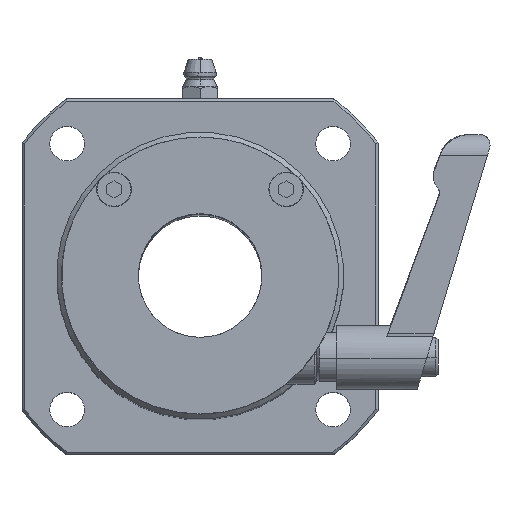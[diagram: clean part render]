
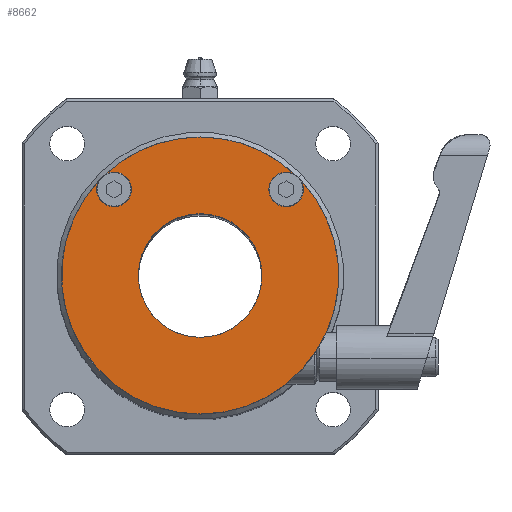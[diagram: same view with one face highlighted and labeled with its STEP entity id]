
A CAD part, top view. The second image highlights one B-rep face of the part: STEP entity #8662.
In plain terms, the highlighted planar face has unit normal (0, 0, 1).
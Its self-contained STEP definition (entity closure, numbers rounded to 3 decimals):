
#295 = EDGE_CURVE ( 'NONE', #2784, #10614, #4389, .T. ) ;
#432 = DIRECTION ( 'NONE',  ( 1., 0., 0. ) ) ;
#451 = CARTESIAN_POINT ( 'NONE',  ( -6.779, -0.556, 63.5 ) ) ;
#469 = EDGE_CURVE ( 'NONE', #9071, #11161, #6266, .T. ) ;
#762 = CARTESIAN_POINT ( 'NONE',  ( 10.621, 16.844, 63.5 ) ) ;
#943 = CARTESIAN_POINT ( 'NONE',  ( -6.779, -0.556, 63.5 ) ) ;
#1249 = FACE_OUTER_BOUND ( 'NONE', #11292, .T. ) ;
#1294 = ORIENTED_EDGE ( 'NONE', *, *, #295, .T. ) ;
#1364 = ORIENTED_EDGE ( 'NONE', *, *, #469, .F. ) ;
#1394 = CARTESIAN_POINT ( 'NONE',  ( 13.658, 18.583, 63.5 ) ) ;
#1433 = DIRECTION ( 'NONE',  ( 0., 0., 1. ) ) ;
#1444 = AXIS2_PLACEMENT_3D ( 'NONE', #3830, #2842, #4770 ) ;
#1508 = ORIENTED_EDGE ( 'NONE', *, *, #8820, .F. ) ;
#1693 = AXIS2_PLACEMENT_3D ( 'NONE', #2888, #11836, #12809 ) ;
#1878 = CIRCLE ( 'NONE', #9169, 3.5 ) ;
#1958 = EDGE_CURVE ( 'NONE', #3305, #10330, #5080, .T. ) ;
#2020 = CARTESIAN_POINT ( 'NONE',  ( -6.779, -13.056, 63.5 ) ) ;
#2065 = EDGE_CURVE ( 'NONE', #9964, #11095, #8776, .T. ) ;
#2465 = CARTESIAN_POINT ( 'NONE',  ( -24.179, 16.844, 63.5 ) ) ;
#2580 = DIRECTION ( 'NONE',  ( 0., -1., 0. ) ) ;
#2639 = CARTESIAN_POINT ( 'NONE',  ( -6.779, -0.556, 63.5 ) ) ;
#2648 = ORIENTED_EDGE ( 'NONE', *, *, #5536, .T. ) ;
#2728 = CIRCLE ( 'NONE', #6018, 28. ) ;
#2784 = VERTEX_POINT ( 'NONE', #7586 ) ;
#2842 = DIRECTION ( 'NONE',  ( 0., 0., 1. ) ) ;
#2888 = CARTESIAN_POINT ( 'NONE',  ( 10.621, 16.844, 63.5 ) ) ;
#2921 = CIRCLE ( 'NONE', #1444, 28. ) ;
#3042 = PLANE ( 'NONE',  #5092 ) ;
#3122 = DIRECTION ( 'NONE',  ( 0., -1., 0. ) ) ;
#3279 = CARTESIAN_POINT ( 'NONE',  ( -24.179, 16.844, 63.5 ) ) ;
#3305 = VERTEX_POINT ( 'NONE', #11203 ) ;
#3432 = CARTESIAN_POINT ( 'NONE',  ( 14.121, 16.844, 63.5 ) ) ;
#3686 = ORIENTED_EDGE ( 'NONE', *, *, #6812, .T. ) ;
#3830 = CARTESIAN_POINT ( 'NONE',  ( -6.779, -0.556, 63.5 ) ) ;
#4027 = AXIS2_PLACEMENT_3D ( 'NONE', #762, #8530, #8714 ) ;
#4229 = EDGE_CURVE ( 'NONE', #11161, #10093, #10030, .T. ) ;
#4303 = ORIENTED_EDGE ( 'NONE', *, *, #4229, .F. ) ;
#4362 = DIRECTION ( 'NONE',  ( 0., 0., 1. ) ) ;
#4372 = AXIS2_PLACEMENT_3D ( 'NONE', #11948, #4996, #12795 ) ;
#4389 = CIRCLE ( 'NONE', #7939, 28. ) ;
#4491 = VERTEX_POINT ( 'NONE', #1394 ) ;
#4564 = DIRECTION ( 'NONE',  ( 0., 0., 1. ) ) ;
#4770 = DIRECTION ( 'NONE',  ( 0., -1., 0. ) ) ;
#4996 = DIRECTION ( 'NONE',  ( 0., 0., 1. ) ) ;
#5080 = CIRCLE ( 'NONE', #7597, 12.5 ) ;
#5092 = AXIS2_PLACEMENT_3D ( 'NONE', #12485, #4564, #2580 ) ;
#5511 = CIRCLE ( 'NONE', #9871, 12.5 ) ;
#5536 = EDGE_CURVE ( 'NONE', #9071, #2784, #7417, .T. ) ;
#6018 = AXIS2_PLACEMENT_3D ( 'NONE', #943, #7933, #6732 ) ;
#6163 = ORIENTED_EDGE ( 'NONE', *, *, #1958, .F. ) ;
#6266 = CIRCLE ( 'NONE', #1693, 3.5 ) ;
#6302 = CARTESIAN_POINT ( 'NONE',  ( 12.361, 19.881, 63.5 ) ) ;
#6444 = DIRECTION ( 'NONE',  ( 0., -1., 0. ) ) ;
#6495 = CIRCLE ( 'NONE', #9629, 3.5 ) ;
#6558 = EDGE_CURVE ( 'NONE', #11095, #11759, #10769, .T. ) ;
#6579 = DIRECTION ( 'NONE',  ( 0., 0., 1. ) ) ;
#6732 = DIRECTION ( 'NONE',  ( 0., -1., 0. ) ) ;
#6812 = EDGE_CURVE ( 'NONE', #12386, #4491, #2728, .T. ) ;
#7027 = DIRECTION ( 'NONE',  ( 0., -1., 0. ) ) ;
#7043 = EDGE_CURVE ( 'NONE', #10093, #4491, #1878, .T. ) ;
#7417 = CIRCLE ( 'NONE', #8052, 28. ) ;
#7586 = CARTESIAN_POINT ( 'NONE',  ( -6.779, 27.444, 63.5 ) ) ;
#7597 = AXIS2_PLACEMENT_3D ( 'NONE', #12128, #8016, #3122 ) ;
#7933 = DIRECTION ( 'NONE',  ( 0., 0., 1. ) ) ;
#7939 = AXIS2_PLACEMENT_3D ( 'NONE', #451, #1433, #6444 ) ;
#8016 = DIRECTION ( 'NONE',  ( 0., 0., 1. ) ) ;
#8017 = CARTESIAN_POINT ( 'NONE',  ( -25.918, 19.881, 63.5 ) ) ;
#8037 = EDGE_CURVE ( 'NONE', #11759, #10614, #6495, .T. ) ;
#8052 = AXIS2_PLACEMENT_3D ( 'NONE', #8214, #4362, #7027 ) ;
#8160 = ORIENTED_EDGE ( 'NONE', *, *, #8037, .F. ) ;
#8214 = CARTESIAN_POINT ( 'NONE',  ( -6.779, -0.556, 63.5 ) ) ;
#8301 = DIRECTION ( 'NONE',  ( 0., -1., 0. ) ) ;
#8530 = DIRECTION ( 'NONE',  ( 0., 0., 1. ) ) ;
#8662 = ADVANCED_FACE ( 'NONE', ( #1249, #10044 ), #3042, .T. ) ;
#8714 = DIRECTION ( 'NONE',  ( 1., 0., 0. ) ) ;
#8776 = CIRCLE ( 'NONE', #11869, 3.5 ) ;
#8820 = EDGE_CURVE ( 'NONE', #10330, #3305, #5511, .T. ) ;
#8857 = ORIENTED_EDGE ( 'NONE', *, *, #7043, .F. ) ;
#9071 = VERTEX_POINT ( 'NONE', #6302 ) ;
#9169 = AXIS2_PLACEMENT_3D ( 'NONE', #11393, #12230, #432 ) ;
#9629 = AXIS2_PLACEMENT_3D ( 'NONE', #3279, #10284, #11374 ) ;
#9713 = CARTESIAN_POINT ( 'NONE',  ( -27.679, 16.844, 63.5 ) ) ;
#9820 = ORIENTED_EDGE ( 'NONE', *, *, #6558, .F. ) ;
#9871 = AXIS2_PLACEMENT_3D ( 'NONE', #2639, #6579, #8301 ) ;
#9919 = CARTESIAN_POINT ( 'NONE',  ( -27.216, 18.583, 63.5 ) ) ;
#9964 = VERTEX_POINT ( 'NONE', #9919 ) ;
#10030 = CIRCLE ( 'NONE', #4027, 3.5 ) ;
#10044 = FACE_BOUND ( 'NONE', #10903, .T. ) ;
#10093 = VERTEX_POINT ( 'NONE', #3432 ) ;
#10284 = DIRECTION ( 'NONE',  ( 0., 0., 1. ) ) ;
#10321 = DIRECTION ( 'NONE',  ( 0., 0., 1. ) ) ;
#10330 = VERTEX_POINT ( 'NONE', #2020 ) ;
#10614 = VERTEX_POINT ( 'NONE', #8017 ) ;
#10769 = CIRCLE ( 'NONE', #4372, 3.5 ) ;
#10903 = EDGE_LOOP ( 'NONE', ( #6163, #1508 ) ) ;
#11095 = VERTEX_POINT ( 'NONE', #9713 ) ;
#11161 = VERTEX_POINT ( 'NONE', #12679 ) ;
#11203 = CARTESIAN_POINT ( 'NONE',  ( -6.779, 11.944, 63.5 ) ) ;
#11208 = ORIENTED_EDGE ( 'NONE', *, *, #12294, .T. ) ;
#11292 = EDGE_LOOP ( 'NONE', ( #11208, #3686, #8857, #4303, #1364, #2648, #1294, #8160, #9820, #12320 ) ) ;
#11374 = DIRECTION ( 'NONE',  ( 1., 0., 0. ) ) ;
#11393 = CARTESIAN_POINT ( 'NONE',  ( 10.621, 16.844, 63.5 ) ) ;
#11652 = CARTESIAN_POINT ( 'NONE',  ( -6.779, -28.556, 63.5 ) ) ;
#11716 = CARTESIAN_POINT ( 'NONE',  ( -20.679, 16.844, 63.5 ) ) ;
#11759 = VERTEX_POINT ( 'NONE', #11716 ) ;
#11836 = DIRECTION ( 'NONE',  ( 0., 0., 1. ) ) ;
#11869 = AXIS2_PLACEMENT_3D ( 'NONE', #2465, #10321, #12837 ) ;
#11948 = CARTESIAN_POINT ( 'NONE',  ( -24.179, 16.844, 63.5 ) ) ;
#12128 = CARTESIAN_POINT ( 'NONE',  ( -6.779, -0.556, 63.5 ) ) ;
#12230 = DIRECTION ( 'NONE',  ( 0., 0., 1. ) ) ;
#12294 = EDGE_CURVE ( 'NONE', #9964, #12386, #2921, .T. ) ;
#12320 = ORIENTED_EDGE ( 'NONE', *, *, #2065, .F. ) ;
#12386 = VERTEX_POINT ( 'NONE', #11652 ) ;
#12485 = CARTESIAN_POINT ( 'NONE',  ( -6.779, -0.556, 63.5 ) ) ;
#12679 = CARTESIAN_POINT ( 'NONE',  ( 7.121, 16.844, 63.5 ) ) ;
#12795 = DIRECTION ( 'NONE',  ( 1., 0., 0. ) ) ;
#12809 = DIRECTION ( 'NONE',  ( 1., 0., 0. ) ) ;
#12837 = DIRECTION ( 'NONE',  ( 1., 0., 0. ) ) ;
